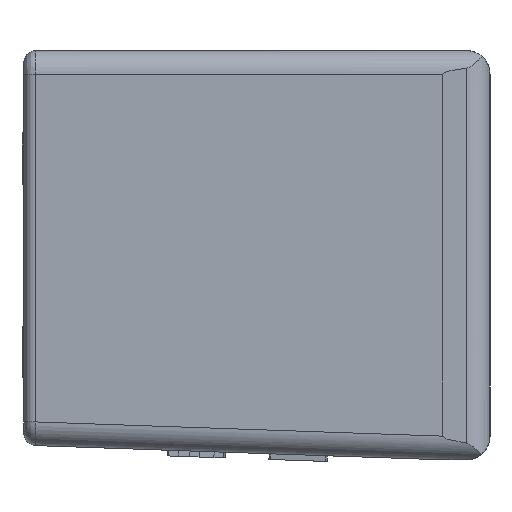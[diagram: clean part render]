
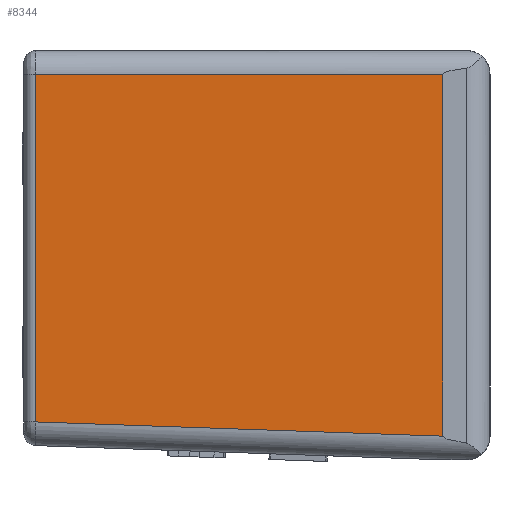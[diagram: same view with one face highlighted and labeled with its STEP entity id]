
A CAD part, left-side view. The second image highlights one B-rep face of the part: STEP entity #8344.
In plain terms, the highlighted planar face has unit normal (-0.999, 0.035, 0).
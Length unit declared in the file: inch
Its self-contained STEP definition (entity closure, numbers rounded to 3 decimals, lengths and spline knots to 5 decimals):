
#253 = CARTESIAN_POINT ( 'NONE',  ( -2.25247, 1.19984, 0.4775 ) ) ;
#770 = LINE ( 'NONE', #4581, #13046 ) ;
#988 = LINE ( 'NONE', #1969, #3616 ) ;
#1969 = CARTESIAN_POINT ( 'NONE',  ( -2.29, 0.125, -0.54 ) ) ;
#2110 = PLANE ( 'NONE',  #12374 ) ;
#2629 = DIRECTION ( 'NONE',  ( -0.035, -0.999, -0.035 ) ) ;
#2671 = ORIENTED_EDGE ( 'NONE', *, *, #4298, .T. ) ;
#3088 = VERTEX_POINT ( 'NONE', #9937 ) ;
#3339 = CARTESIAN_POINT ( 'NONE',  ( -2.29, 0.125, -0.54 ) ) ;
#3395 = FACE_OUTER_BOUND ( 'NONE', #14493, .T. ) ;
#3461 = VERTEX_POINT ( 'NONE', #12339 ) ;
#3616 = VECTOR ( 'NONE', #6493, 39.37008 ) ;
#4298 = EDGE_CURVE ( 'NONE', #3088, #8580, #9727, .T. ) ;
#4352 = VECTOR ( 'NONE', #2629, 39.37008 ) ;
#4527 = DIRECTION ( 'NONE',  ( 0., 0., -1. ) ) ;
#4581 = CARTESIAN_POINT ( 'NONE',  ( -2.29, 0.125, 0.4775 ) ) ;
#5197 = EDGE_CURVE ( 'NONE', #8580, #3461, #988, .T. ) ;
#5340 = DIRECTION ( 'NONE',  ( 0.035, 0.999, 0. ) ) ;
#5534 = VECTOR ( 'NONE', #4527, 39.37008 ) ;
#5610 = DIRECTION ( 'NONE',  ( 0.035, 0.999, 0. ) ) ;
#6493 = DIRECTION ( 'NONE',  ( 0., 0., 1. ) ) ;
#6831 = EDGE_CURVE ( 'NONE', #13287, #3088, #8131, .T. ) ;
#6853 = CARTESIAN_POINT ( 'NONE',  ( -2.25247, 1.19984, -0.54 ) ) ;
#7663 = EDGE_CURVE ( 'NONE', #3461, #13287, #770, .T. ) ;
#8040 = CARTESIAN_POINT ( 'NONE',  ( -2.29, 0.125, -0.47754 ) ) ;
#8131 = LINE ( 'NONE', #6853, #5534 ) ;
#8344 = ADVANCED_FACE ( 'NONE', ( #3395 ), #2110, .F. ) ;
#8580 = VERTEX_POINT ( 'NONE', #8040 ) ;
#9727 = LINE ( 'NONE', #14179, #4352 ) ;
#9937 = CARTESIAN_POINT ( 'NONE',  ( -2.25247, 1.19984, -0.44 ) ) ;
#11486 = ORIENTED_EDGE ( 'NONE', *, *, #7663, .T. ) ;
#11970 = ORIENTED_EDGE ( 'NONE', *, *, #5197, .T. ) ;
#12339 = CARTESIAN_POINT ( 'NONE',  ( -2.29, 0.125, 0.4775 ) ) ;
#12374 = AXIS2_PLACEMENT_3D ( 'NONE', #3339, #14330, #5340 ) ;
#13046 = VECTOR ( 'NONE', #5610, 39.37008 ) ;
#13287 = VERTEX_POINT ( 'NONE', #253 ) ;
#14179 = CARTESIAN_POINT ( 'NONE',  ( -2.29008, 0.12282, -0.47761 ) ) ;
#14294 = ORIENTED_EDGE ( 'NONE', *, *, #6831, .T. ) ;
#14330 = DIRECTION ( 'NONE',  ( 0.999, -0.035, 0. ) ) ;
#14493 = EDGE_LOOP ( 'NONE', ( #11486, #14294, #2671, #11970 ) ) ;
